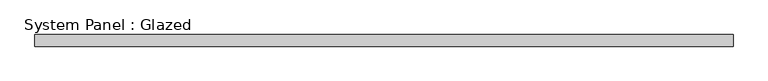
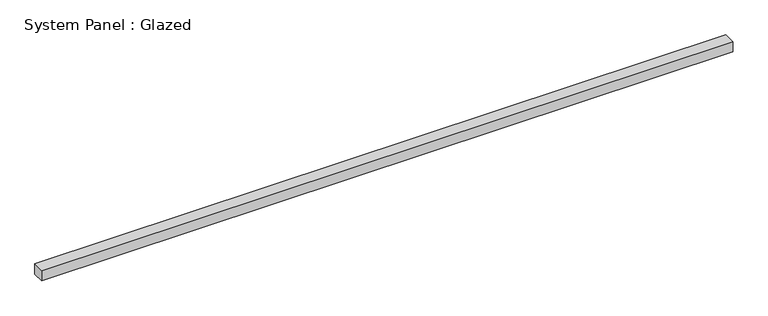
"""IFC4 building model written with IfcOpenShell, lengths in millimetres: plate geometry, System Panel : Glazed."""

from ifc_helpers import new_model, si_unit, origin, origin_with_axes, place, context, project, spatial, polyline, outline, extrude, source, transform, mapped, element, save


def system_panel_glazed_3cc902e7(model_context):
    return source(origin(), model_context, "Body", "SweptSolid", [
        extrude(outline(polyline([(762.0, -44.45), (-762.0, -44.45), (-762.0, -19.05), (762.0, -19.05), (762.0, -44.45)])), origin_with_axes(), (0.0, 0.0, 1.0), 24.0243608),
    ])


if __name__ == "__main__":
    model = new_model("IFC4")
    model_context = context("Model", 3, world=origin())
    ifc_project = project(units=[si_unit("LENGTHUNIT", "METRE", prefix="MILLI")], contexts=[model_context])
    site = spatial("IfcSite", under=ifc_project)
    building = spatial("IfcBuilding", under=site)
    placement = place(None, origin())
    system_panel_glazed_shape = system_panel_glazed_3cc902e7(model_context)
    element("IfcPlate", 1, ObjectType="System Panel : Glazed", at=placement, inside=building, context=model_context, shape_type="MappedRepresentation", body=[
        mapped(system_panel_glazed_shape, transform((0.0, 0.0, 0.0), x_axis=(1.0, 0.0, 0.0), y_axis=(0.0, 1.0, 0.0), z_axis=(0.0, 0.0, 1.0))),
    ])
    save(model, "model.ifc")
